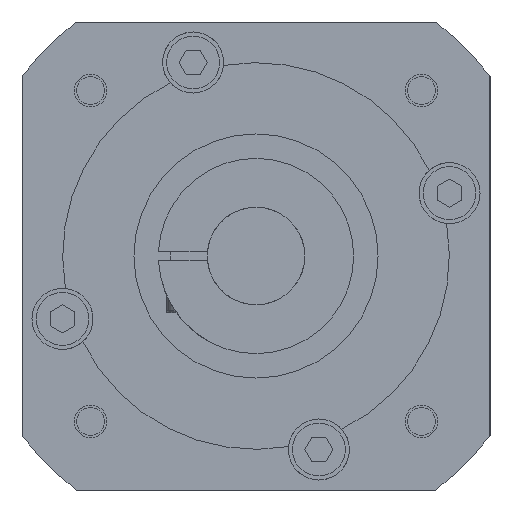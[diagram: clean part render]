
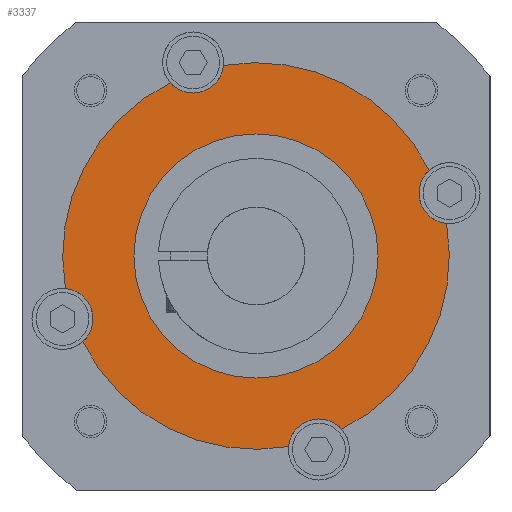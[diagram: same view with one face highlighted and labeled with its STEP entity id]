
A CAD part, left-side view. The second image highlights one B-rep face of the part: STEP entity #3337.
In plain terms, the highlighted planar face has unit normal (-1, 0, 0).
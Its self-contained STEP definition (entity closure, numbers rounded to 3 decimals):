
#229=CARTESIAN_POINT('',(6.,0.,0.));
#230=DIRECTION('',(-1.,0.,0.));
#231=DIRECTION('',(0.,0.,1.));
#232=AXIS2_PLACEMENT_3D('',#229,#230,#231);
#238=CARTESIAN_POINT('',(6.,0.,0.));
#239=DIRECTION('',(-1.,0.,0.));
#240=DIRECTION('',(0.,0.,-1.));
#241=AXIS2_PLACEMENT_3D('',#238,#239,#240);
#243=CARTESIAN_POINT('',(6.,-47.553,15.451));
#244=DIRECTION('',(-1.,0.,0.));
#245=DIRECTION('',(0.,0.664,0.748));
#246=AXIS2_PLACEMENT_3D('',#243,#244,#245);
#248=CARTESIAN_POINT('',(6.,-15.451,-47.553));
#249=DIRECTION('',(-1.,0.,0.));
#250=DIRECTION('',(0.,-0.748,0.664));
#251=AXIS2_PLACEMENT_3D('',#248,#249,#250);
#253=CARTESIAN_POINT('',(6.,-15.451,-47.553));
#254=DIRECTION('',(-1.,0.,0.));
#255=DIRECTION('',(0.,0.,1.));
#256=AXIS2_PLACEMENT_3D('',#253,#254,#255);
#258=CARTESIAN_POINT('',(6.,47.553,-15.451));
#259=DIRECTION('',(-1.,0.,0.));
#260=DIRECTION('',(0.,-0.664,-0.748));
#261=AXIS2_PLACEMENT_3D('',#258,#259,#260);
#263=CARTESIAN_POINT('',(6.,15.451,47.553));
#264=DIRECTION('',(-1.,0.,0.));
#265=DIRECTION('',(0.,0.748,-0.664));
#266=AXIS2_PLACEMENT_3D('',#263,#264,#265);
#268=CARTESIAN_POINT('',(6.,15.451,47.553));
#269=DIRECTION('',(-1.,0.,0.));
#270=DIRECTION('',(0.,0.,-1.));
#271=AXIS2_PLACEMENT_3D('',#268,#269,#270);
#373=CARTESIAN_POINT('',(6.,0.,0.));
#374=DIRECTION('',(-1.,0.,0.));
#375=DIRECTION('',(0.,-0.896,0.443));
#376=AXIS2_PLACEMENT_3D('',#373,#374,#375);
#382=CARTESIAN_POINT('',(6.,0.,0.));
#383=DIRECTION('',(-1.,0.,0.));
#384=DIRECTION('',(0.,-0.443,-0.896));
#385=AXIS2_PLACEMENT_3D('',#382,#383,#384);
#408=CARTESIAN_POINT('',(6.,0.,0.));
#409=DIRECTION('',(1.,0.,0.));
#410=DIRECTION('',(0.,-0.168,-0.986));
#411=AXIS2_PLACEMENT_3D('',#408,#409,#410);
#422=CARTESIAN_POINT('',(6.,0.,0.));
#423=DIRECTION('',(-1.,0.,0.));
#424=DIRECTION('',(0.,0.443,0.896));
#425=AXIS2_PLACEMENT_3D('',#422,#423,#424);
#2797=CARTESIAN_POINT('',(6.,-15.451,-40.053));
#2798=VERTEX_POINT('',#2797);
#2799=CARTESIAN_POINT('',(6.,15.451,40.053));
#2800=VERTEX_POINT('',#2799);
#2933=CARTESIAN_POINT('',(6.,0.,-30.));
#2934=VERTEX_POINT('',#2933);
#2935=CARTESIAN_POINT('',(6.,0.,30.));
#2936=VERTEX_POINT('',#2935);
#3073=CARTESIAN_POINT('',(6.,-21.061,-42.576));
#3074=VERTEX_POINT('',#3073);
#3075=CARTESIAN_POINT('',(6.,-7.986,-46.824));
#3076=VERTEX_POINT('',#3075);
#3077=CARTESIAN_POINT('',(6.,42.576,-21.061));
#3078=VERTEX_POINT('',#3077);
#3079=CARTESIAN_POINT('',(6.,46.824,-7.986));
#3080=VERTEX_POINT('',#3079);
#3081=CARTESIAN_POINT('',(6.,-42.576,21.061));
#3082=VERTEX_POINT('',#3081);
#3083=CARTESIAN_POINT('',(6.,-46.824,7.986));
#3084=VERTEX_POINT('',#3083);
#3085=CARTESIAN_POINT('',(6.,7.986,46.824));
#3086=VERTEX_POINT('',#3085);
#3087=CARTESIAN_POINT('',(6.,21.061,42.576));
#3088=VERTEX_POINT('',#3087);
#3306=CARTESIAN_POINT('',(6.,0.,0.));
#3307=DIRECTION('',(1.,0.,0.));
#3308=DIRECTION('',(0.,1.,0.));
#3309=AXIS2_PLACEMENT_3D('',#3306,#3307,#3308);
#3310=PLANE('',#3309);
#3312=ORIENTED_EDGE('',*,*,#3311,.T.);
#3314=ORIENTED_EDGE('',*,*,#3313,.F.);
#3316=ORIENTED_EDGE('',*,*,#3315,.T.);
#3318=ORIENTED_EDGE('',*,*,#3317,.T.);
#3320=ORIENTED_EDGE('',*,*,#3319,.T.);
#3322=ORIENTED_EDGE('',*,*,#3321,.T.);
#3324=ORIENTED_EDGE('',*,*,#3323,.F.);
#3326=ORIENTED_EDGE('',*,*,#3325,.T.);
#3328=ORIENTED_EDGE('',*,*,#3327,.T.);
#3330=ORIENTED_EDGE('',*,*,#3329,.F.);
#3331=EDGE_LOOP('',(#3312,#3314,#3316,#3318,#3320,#3322,#3324,#3326,#3328,
#3330));
#3332=FACE_OUTER_BOUND('',#3331,.F.);
#3333=ORIENTED_EDGE('',*,*,#3285,.T.);
#3334=ORIENTED_EDGE('',*,*,#3301,.T.);
#3335=EDGE_LOOP('',(#3333,#3334));
#3336=FACE_BOUND('',#3335,.F.);
#233=CIRCLE('',#232,30.);
#242=CIRCLE('',#241,30.);
#247=CIRCLE('',#246,7.5);
#252=CIRCLE('',#251,7.5);
#257=CIRCLE('',#256,7.5);
#262=CIRCLE('',#261,7.5);
#267=CIRCLE('',#266,7.5);
#272=CIRCLE('',#271,7.5);
#377=CIRCLE('',#376,47.5);
#386=CIRCLE('',#385,47.5);
#412=CIRCLE('',#411,47.5);
#426=CIRCLE('',#425,47.5);
#3285=EDGE_CURVE('',#2936,#2934,#233,.T.);
#3301=EDGE_CURVE('',#2934,#2936,#242,.T.);
#3311=EDGE_CURVE('',#3082,#3084,#247,.T.);
#3313=EDGE_CURVE('',#3074,#3084,#386,.T.);
#3315=EDGE_CURVE('',#3074,#2798,#252,.T.);
#3317=EDGE_CURVE('',#2798,#3076,#257,.T.);
#3319=EDGE_CURVE('',#3076,#3078,#412,.T.);
#3321=EDGE_CURVE('',#3078,#3080,#262,.T.);
#3323=EDGE_CURVE('',#3088,#3080,#426,.T.);
#3325=EDGE_CURVE('',#3088,#2800,#267,.T.);
#3327=EDGE_CURVE('',#2800,#3086,#272,.T.);
#3329=EDGE_CURVE('',#3082,#3086,#377,.T.);
#3337=ADVANCED_FACE('',(#3332,#3336),#3310,.F.);
